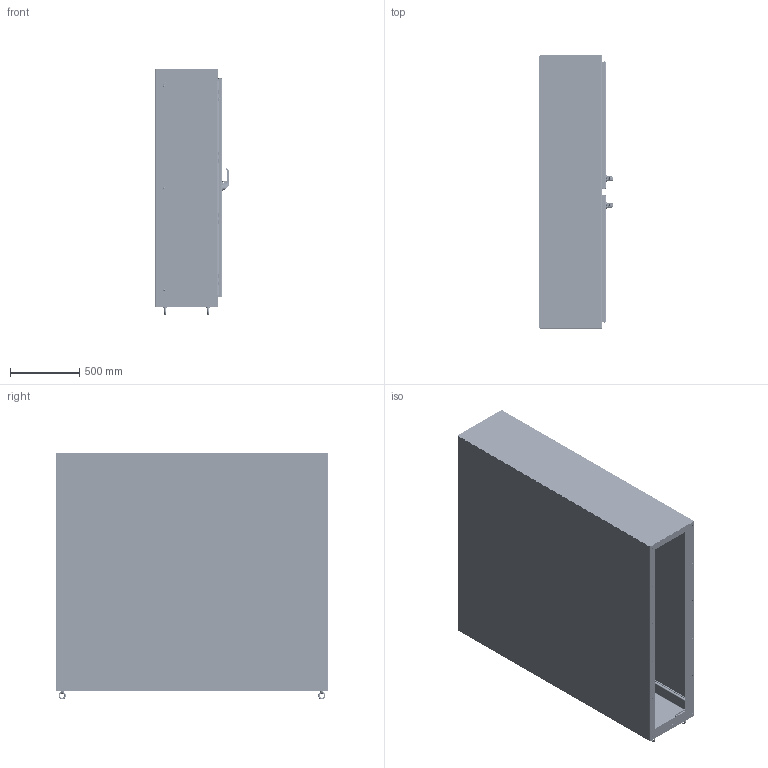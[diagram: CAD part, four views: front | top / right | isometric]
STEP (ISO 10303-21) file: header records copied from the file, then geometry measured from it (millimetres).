
FILE_DESCRIPTION((''),'2;1');
FILE_NAME('MODEL-462_ASM','2026-04-27T08:30:04',('andrew.knowlton'),('SAGINAW CONTROL & ENGINEERING'),'CREO PARAMETRIC BY PTC INC, 2021284','CREO PARAMETRIC BY PTC INC, 2021284','');
FILE_SCHEMA(('AUTOMOTIVE_DESIGN { 1 0 10303 214 1 1 1 1 }'));
Length unit declared in the file: inch
Products named in the file (97): MODEL-462-L-SD; MODEL-462-TP; MODEL-462-R-SD; MODEL-462-BTM; MODEL-462-RH-DR; 100837; 100957_SCREW_MTG; 100957_PADLOCK_CATCH; 100957_SCREW_LARGE; 100957_INSERT_SHAFT; 100957_INSERT_PH; 100957_GASKET; 100957_O-RING; 100957_BASE; 100957_SPRING; 100957_HANDLE; 100957_CAM_SHAFT; 100957_HANDLE_ASM; 100957_CAM_ADAPTER; 100957_EARTH_NUT; 100957_FLANGE_NUT; 100957_CAM_NUT; 100957_ASM; 102236; 100030; 102236_ASM; MODEL-462-ROD-RH-UPR; 128146; 128145; 128144; 102482; MODEL-462-ROD-RH-UPR_ASM; 128143; 100882; 112504; MODEL-462-ROD-RH-LWR; MODEL-462-ROD-RH-LWR_ASM; MODEL-462-PR-GSKT-RH; 128258; 128258_ASM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
Assembly tree (238 placements, depth 5):
  MODEL-462_ASM
    MODEL-462-L-SD
    MODEL-462-TP
    MODEL-462-R-SD
    MODEL-462-BTM
    MODEL-462-RH-DOOR-ASSY_ASM
      MODEL-462-RH-DR
      100837  x3
      100957_ASM
        100957_SCREW_MTG
        100957_PADLOCK_CATCH
        100957_SCREW_LARGE  x2
        100957_INSERT_SHAFT
        100957_INSERT_PH
        100957_GASKET
        100957_O-RING
        100957_BASE
        100957_SPRING
        100957_HANDLE_ASM
          100957_HANDLE
          100957_CAM_SHAFT
        100957_CAM_ADAPTER
        100957_EARTH_NUT
        100957_FLANGE_NUT
        100957_CAM_NUT
      102236_ASM
        102236
        100030  x2
      MODEL-462-ROD-RH-UPR_ASM
        MODEL-462-ROD-RH-UPR
        128146
        128145
        128144
        102482  x2
      128143  x2
      100882  x10
      112504  x2
      MODEL-462-ROD-RH-LWR_ASM
        MODEL-462-ROD-RH-LWR
        128146
        128145
        128144
        102482  x2
      MODEL-462-PR-GSKT-RH
      128258_ASM  x4
        128258
      126395  x4
      102483  x4
      101383_ASM  x4
        101383
        101383-STUD
      101221  x4
      125597
    MODEL-462-LH-DOOR-ASSY_ASM
      MODEL-462-LH-DR
      100837  x3
      100957_ASM
        100957_SCREW_MTG
        100957_PADLOCK_CATCH
        100957_SCREW_LARGE  x2
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Bounding box: 535.27 x 1974.85 x 1788.36 mm (x, y, z)
Volume: 40451805.2 mm3; surface area: 29005266.9 mm2
Topology: 281 solids, 281 shells, 26730 faces, 67698 edges, 41599 vertices
Faces by surface type: plane 9110, cylinder 7252, bspline 5721, torus 2159, cone 1305, sphere 802, extrusion 381
Entity records: 607580 total; most frequent: CARTESIAN_POINT 279276, ORIENTED_EDGE 49770, DIRECTION 46026, PRESENTATION_STYLE_ASSIGNMENT 25759, STYLED_ITEM 25729, CURVE_STYLE 24885, EDGE_CURVE 24885, AXIS2_PLACEMENT_3D 16936
